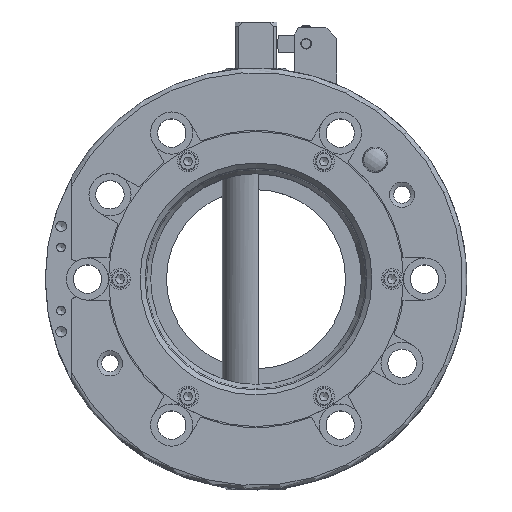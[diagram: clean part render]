
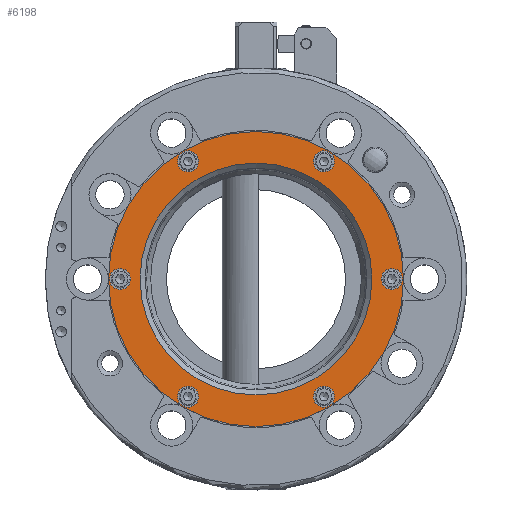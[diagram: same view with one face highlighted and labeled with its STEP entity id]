
A CAD part, top view. The second image highlights one B-rep face of the part: STEP entity #6198.
In plain terms, the highlighted planar face has unit normal (0, 0, 1).
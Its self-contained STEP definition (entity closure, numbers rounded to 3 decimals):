
#697=CIRCLE('',#6780,70.);
#703=CIRCLE('',#6790,5.);
#704=CIRCLE('',#6791,5.);
#705=CIRCLE('',#6792,5.);
#706=CIRCLE('',#6793,5.);
#707=CIRCLE('',#6794,5.);
#708=CIRCLE('',#6795,5.);
#709=CIRCLE('',#6796,55.);
#938=PLANE('',#6789);
#1206=FACE_BOUND('',#1623,.T.);
#1207=FACE_BOUND('',#1624,.T.);
#1208=FACE_BOUND('',#1625,.T.);
#1209=FACE_BOUND('',#1626,.T.);
#1210=FACE_BOUND('',#1627,.T.);
#1211=FACE_BOUND('',#1628,.T.);
#1212=FACE_BOUND('',#1629,.T.);
#1213=FACE_BOUND('',#1630,.T.);
#1623=EDGE_LOOP('',(#4588));
#1624=EDGE_LOOP('',(#4589));
#1625=EDGE_LOOP('',(#4590));
#1626=EDGE_LOOP('',(#4591));
#1627=EDGE_LOOP('',(#4592));
#1628=EDGE_LOOP('',(#4593));
#1629=EDGE_LOOP('',(#4594));
#1630=EDGE_LOOP('',(#4595));
#2871=VERTEX_POINT('',#10183);
#2877=VERTEX_POINT('',#10199);
#2878=VERTEX_POINT('',#10201);
#2879=VERTEX_POINT('',#10203);
#2880=VERTEX_POINT('',#10205);
#2881=VERTEX_POINT('',#10207);
#2882=VERTEX_POINT('',#10209);
#2883=VERTEX_POINT('',#10211);
#3517=EDGE_CURVE('',#2871,#2871,#697,.T.);
#3523=EDGE_CURVE('',#2877,#2877,#703,.T.);
#3524=EDGE_CURVE('',#2878,#2878,#704,.T.);
#3525=EDGE_CURVE('',#2879,#2879,#705,.T.);
#3526=EDGE_CURVE('',#2880,#2880,#706,.T.);
#3527=EDGE_CURVE('',#2881,#2881,#707,.T.);
#3528=EDGE_CURVE('',#2882,#2882,#708,.T.);
#3529=EDGE_CURVE('',#2883,#2883,#709,.T.);
#4588=ORIENTED_EDGE('',*,*,#3523,.T.);
#4589=ORIENTED_EDGE('',*,*,#3524,.T.);
#4590=ORIENTED_EDGE('',*,*,#3525,.T.);
#4591=ORIENTED_EDGE('',*,*,#3526,.T.);
#4592=ORIENTED_EDGE('',*,*,#3527,.T.);
#4593=ORIENTED_EDGE('',*,*,#3528,.T.);
#4594=ORIENTED_EDGE('',*,*,#3517,.T.);
#4595=ORIENTED_EDGE('',*,*,#3529,.F.);
#6198=ADVANCED_FACE('',(#1206,#1207,#1208,#1209,#1210,#1211,#1212,#1213),
#938,.T.);
#6780=AXIS2_PLACEMENT_3D('',#10184,#7971,#7972);
#6789=AXIS2_PLACEMENT_3D('',#10198,#7989,#7990);
#6790=AXIS2_PLACEMENT_3D('',#10200,#7991,#7992);
#6791=AXIS2_PLACEMENT_3D('',#10202,#7993,#7994);
#6792=AXIS2_PLACEMENT_3D('',#10204,#7995,#7996);
#6793=AXIS2_PLACEMENT_3D('',#10206,#7997,#7998);
#6794=AXIS2_PLACEMENT_3D('',#10208,#7999,#8000);
#6795=AXIS2_PLACEMENT_3D('',#10210,#8001,#8002);
#6796=AXIS2_PLACEMENT_3D('',#10212,#8003,#8004);
#7971=DIRECTION('center_axis',(0.,0.,
1.));
#7972=DIRECTION('ref_axis',(0.,-1.,0.));
#7989=DIRECTION('center_axis',(0.,0.,
1.));
#7990=DIRECTION('ref_axis',(1.,0.,0.));
#7991=DIRECTION('center_axis',(0.,0.,
-1.));
#7992=DIRECTION('ref_axis',(-0.5,-0.866,0.));
#7993=DIRECTION('center_axis',(0.,0.,
-1.));
#7994=DIRECTION('ref_axis',(-1.,0.,0.));
#7995=DIRECTION('center_axis',(0.,0.,
-1.));
#7996=DIRECTION('ref_axis',(-0.5,0.866,0.));
#7997=DIRECTION('center_axis',(0.,0.,
-1.));
#7998=DIRECTION('ref_axis',(0.5,0.866,0.));
#7999=DIRECTION('center_axis',(0.,0.,
-1.));
#8000=DIRECTION('ref_axis',(0.5,-0.866,0.));
#8001=DIRECTION('center_axis',(0.,0.,
-1.));
#8002=DIRECTION('ref_axis',(1.,0.,0.));
#8003=DIRECTION('center_axis',(0.,0.,
1.));
#8004=DIRECTION('ref_axis',(0.,1.,0.));
#10183=CARTESIAN_POINT('',(0.,-70.,32.4));
#10184=CARTESIAN_POINT('Origin',(0.,0.,
32.4));
#10198=CARTESIAN_POINT('Origin',(0.,-61.,32.4));
#10199=CARTESIAN_POINT('',(29.75,51.529,32.4));
#10200=CARTESIAN_POINT('Origin',(32.25,55.859,32.4));
#10201=CARTESIAN_POINT('',(59.5,0.,32.4));
#10202=CARTESIAN_POINT('Origin',(64.5,0.,32.4));
#10203=CARTESIAN_POINT('',(29.75,-51.529,32.4));
#10204=CARTESIAN_POINT('Origin',(32.25,-55.859,32.4));
#10205=CARTESIAN_POINT('',(-29.75,-51.529,32.4));
#10206=CARTESIAN_POINT('Origin',(-32.25,-55.859,32.4));
#10207=CARTESIAN_POINT('',(-29.75,51.529,32.4));
#10208=CARTESIAN_POINT('Origin',(-32.25,55.859,32.4));
#10209=CARTESIAN_POINT('',(-59.5,0.,32.4));
#10210=CARTESIAN_POINT('Origin',(-64.5,0.,32.4));
#10211=CARTESIAN_POINT('',(0.,-55.,32.4));
#10212=CARTESIAN_POINT('Origin',(0.,0.,
32.4));
